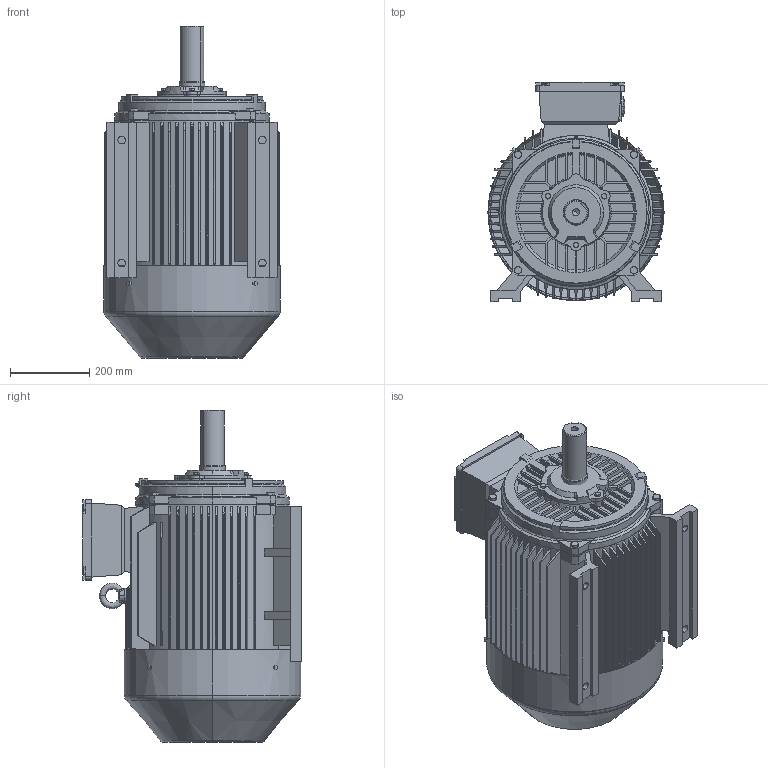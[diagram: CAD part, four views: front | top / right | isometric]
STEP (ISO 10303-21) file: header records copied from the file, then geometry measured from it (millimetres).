
FILE_DESCRIPTION (( 'STEP AP203' ), '1' );
FILE_NAME ('TE3-225M-4,6,8 B3上.STEP', '2019-12-23T02:14:46', ( '微软用户' ), ( '微软中国' ), 'SwSTEP 2.0', 'SolidWorks 2012', '' );
FILE_SCHEMA (( 'CONFIG_CONTROL_DESIGN' ));
Length unit declared in the file: millimetre
Products named in the file (14): YE3-225-4,6,8（轴伸）; hex head bolts-full thread grade c gb_GB_FASTENER_BOLT_HHBFTC M12X25-N; hex head bolts-full thread grade c gb_GB_FASTENER_BOLT_HHBFTC M8X25-N; Y2-225-4,6,8轴承外盖（轴伸端）; Y2-225-4,6,8端盖（轴伸）文登8SLJ.013.00118; Y2-225M儂釱8LY2.225.034.002; TE3-225M-4,6,8 B3奻; 蚐戚; Y2-200~225 P24諉盄碟; hexagon head bolts-full thread gb_GB_FASTENER_BOLT_STBAB A M8X16-N; 8EJ.353.10054GX200~225P24諉盄碟裔; 8EJ.354.594Y2-200~225P24諉盄碟釱; eyebolts gb_GB_FASTENER_SCREWS_FRS M16-N; YX3-225 瑞欶
Assembly tree (21 placements, depth 3):
  TE3-225M-4,6,8 B3奻
    Y2-225M儂釱8LY2.225.034.002
    Y2-225-4,6,8端盖（轴伸）文登8SLJ.013.00118
    Y2-225-4,6,8轴承外盖（轴伸端）
    hex head bolts-full thread grade c gb_GB_FASTENER_BOLT_HHBFTC M8X25-N  x3
    hex head bolts-full thread grade c gb_GB_FASTENER_BOLT_HHBFTC M12X25-N  x4
    YE3-225-4,6,8（轴伸）
    YX3-225 瑞欶
    eyebolts gb_GB_FASTENER_SCREWS_FRS M16-N
    Y2-200~225 P24諉盄碟
      8EJ.354.594Y2-200~225P24諉盄碟釱
      8EJ.353.10054GX200~225P24諉盄碟裔
      hexagon head bolts-full thread gb_GB_FASTENER_BOLT_STBAB A M8X16-N  x4
    蚐戚
Bounding box: 446 x 554 x 840 mm (x, y, z)
Volume: 61608356.4 mm3; surface area: 3665984.5 mm2
Topology: 21 solids, 21 shells, 2857 faces, 7051 edges, 4624 vertices
Faces by surface type: plane 2135, cylinder 303, cone 246, bspline 124, torus 43, sphere 6
Entity records: 92245 total; most frequent: CARTESIAN_POINT 28044, ORIENTED_EDGE 13228, DIRECTION 11781, EDGE_CURVE 6614, VECTOR 5003, LINE 5003, VERTEX_POINT 4361, AXIS2_PLACEMENT_3D 3389
